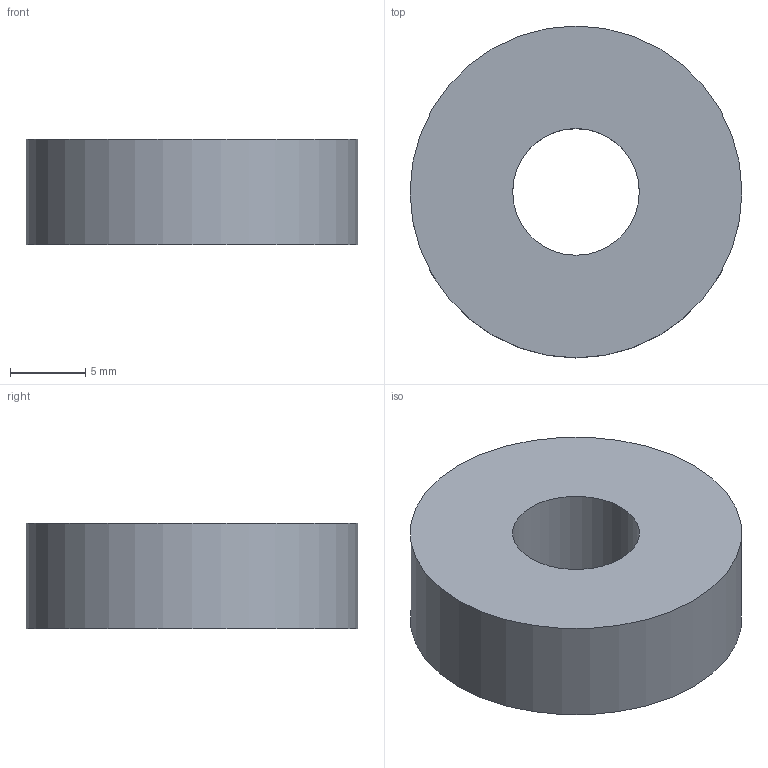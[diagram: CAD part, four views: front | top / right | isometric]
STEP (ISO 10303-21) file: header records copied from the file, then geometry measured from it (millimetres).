
FILE_DESCRIPTION(('Open CASCADE Model'),'2;1');
FILE_NAME('Open CASCADE Shape Model','2026-10-26T17:58:52',('Author'),( 'Open CASCADE'),'Open CASCADE STEP processor 7.9','Open CASCADE 7.9' ,'Unknown');
FILE_SCHEMA(('AUTOMOTIVE_DESIGN { 1 0 10303 214 1 1 1 1 }'));
Length unit declared in the file: millimetre
Products named in the file (1): Open CASCADE STEP translator 7.9 10
Bounding box: 22 x 22 x 7 mm (x, y, z)
Volume: 2273 mm3; surface area: 1318 mm2
Topology: 1 solids, 1 shells, 4 faces, 6 edges, 4 vertices
Faces by surface type: cylinder 2, plane 2
Full cylindrical faces by diameter (mm): 8.4 x1, 22 x1
Entity records: 186 total; most frequent: DIRECTION 32, CARTESIAN_POINT 27, ORIENTED_EDGE 12, PCURVE 12, DEFINITIONAL_REPRESENTATION 12, LINE 10, VECTOR 10, AXIS2_PLACEMENT_3D 9
